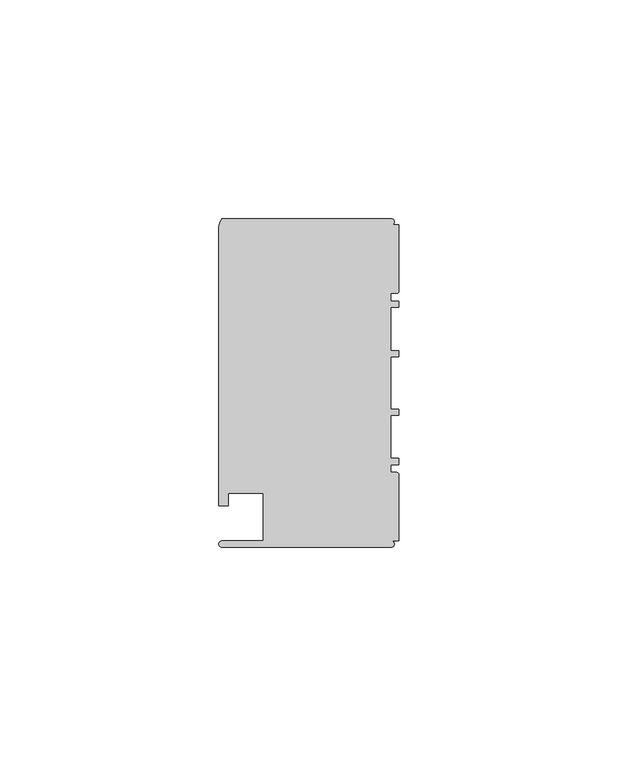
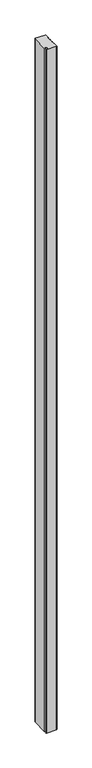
"""IFC4 building model written with IfcOpenShell, lengths in millimetres: member geometry, Прямоугольный импост : 1-AMG-1-Профиль 40Х75 Низ Л."""

from ifc_helpers import new_model, si_unit, point, frame, frame_2d, origin, place, context, project, spatial, polyline, circle_curve, trimmed, segment, composite_curve, outline, extrude, source, transform, mapped, element, save


def member_572960a0(model_context):
    return source(origin(), model_context, "Body", "SweptSolid", [
        extrude(outline(composite_curve([segment(polyline([(-1.7, -37.5), (-40.4, -37.5)]), True, "CONTINUOUS"), segment(trimmed(circle_curve(frame_2d((-40.4, -36.8)), 0.7), [point((-40.4, -37.5))], [point((-40.4, -36.1))], False, "CARTESIAN"), True, "CONTINUOUS"), segment(polyline([(-40.4, -36.1), (-31.0, -36.1), (-31.0, -25.25), (-39.0, -25.25), (-39.0, -28.1), (-41.1, -28.1), (-41.1, 35.6)]), True, "CONTINUOUS"), segment(trimmed(circle_curve(frame_2d((-38.1714286, 35.6)), 2.9285714), [point((-41.1, 35.6))], [point((-40.4, 37.5))], False, "CARTESIAN"), True, "CONTINUOUS"), segment(polyline([(-40.4, 37.5), (-1.7, 37.5)]), True, "CONTINUOUS"), segment(trimmed(circle_curve(frame_2d((-1.7, 36.8)), 0.7), [point((-1.7, 37.5))], [point((-1.7, 36.1))], False, "CARTESIAN"), True, "CONTINUOUS"), segment(polyline([(-1.7, 36.1), (0.0, 36.1), (0.0, 20.95)]), True, "CONTINUOUS"), segment(trimmed(circle_curve(frame_2d((-0.5, 20.95)), 0.5), [point((0.0, 20.95))], [point((-0.5, 20.45))], False, "CARTESIAN"), True, "CONTINUOUS"), segment(polyline([(-0.5, 20.45), (-1.8, 20.45), (-1.8, 18.65), (0.0, 18.65), (0.0, 17.25), (-1.8, 17.25), (-1.8, 7.4), (0.0, 7.4), (0.0, 6.0), (-1.8, 6.0), (-1.8, -6.0), (0.0, -6.0), (0.0, -7.4), (-1.8, -7.4), (-1.8, -17.25), (0.0, -17.25), (0.0, -18.65), (-1.8, -18.65), (-1.8, -20.45), (-0.5, -20.45)]), True, "CONTINUOUS"), segment(trimmed(circle_curve(frame_2d((-0.5, -20.95)), 0.5), [point((-0.5, -20.45))], [point((0.0, -20.95))], False, "CARTESIAN"), True, "CONTINUOUS"), segment(polyline([(0.0, -20.95), (0.0, -36.1), (-1.7, -36.1)]), True, "CONTINUOUS"), segment(trimmed(circle_curve(frame_2d((-1.7, -36.8)), 0.7), [point((-1.7, -36.1))], [point((-1.7, -37.5))], False, "CARTESIAN"), True, "CONTINUOUS")], self_intersect=False)), frame((0.0, 0.0, -2717.7849139), z_axis=(0.0, 0.0, 1.0), x_axis=(1.0, 0.0, 0.0)), (0.0, 0.0, 1.0), 2717.7849139),
    ])


if __name__ == "__main__":
    model = new_model("IFC4")
    model_context = context("Model", 3, world=origin())
    ifc_project = project(units=[si_unit("LENGTHUNIT", "METRE", prefix="MILLI")], contexts=[model_context])
    site = spatial("IfcSite", under=ifc_project)
    building = spatial("IfcBuilding", under=site)
    placement = place(None, origin())
    member_shape = member_572960a0(model_context)
    element("IfcMember", 1, ObjectType="Прямоугольный импост : 1-AMG-1-Профиль 40Х75 Низ Л", at=placement, inside=building, context=model_context, shape_type="MappedRepresentation", body=[
        mapped(member_shape, transform((0.0, 0.0, 0.0), x_axis=(1.0, 0.0, 0.0), y_axis=(0.0, 1.0, 0.0), z_axis=(0.0, 0.0, 1.0))),
    ])
    save(model, "model.ifc")
